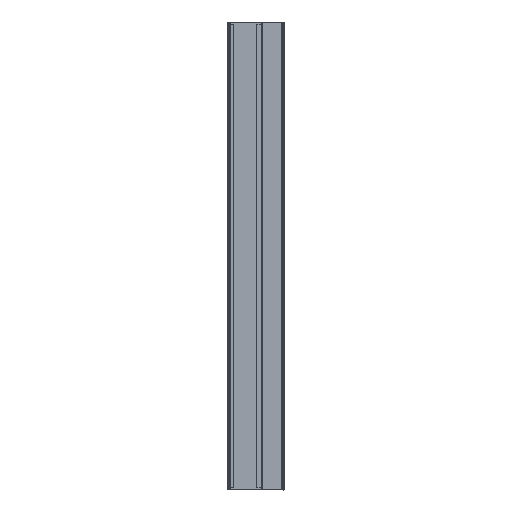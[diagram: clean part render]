
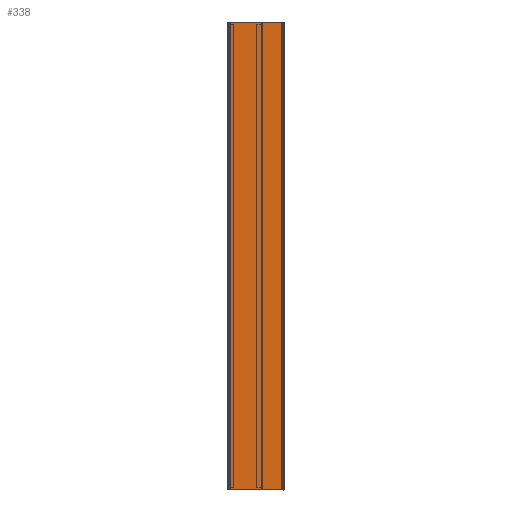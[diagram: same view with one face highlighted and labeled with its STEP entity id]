
A CAD part, left-side view. The second image highlights one B-rep face of the part: STEP entity #338.
In plain terms, the highlighted planar face has unit normal (-1, 0, 0).
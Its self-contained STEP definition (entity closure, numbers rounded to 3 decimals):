
#338=ADVANCED_FACE('',(#1424),#1426,.T.);
#1424=FACE_BOUND('',#1425,.T.);
#1425=EDGE_LOOP('',(#7287,#7288,#7289,#7290));
#1426=PLANE('',#1427);
#1427=AXIS2_PLACEMENT_3D('',#1428,#1429,#1430);
#1428=CARTESIAN_POINT('',(-25.,4.,-285.5));
#1429=DIRECTION('',(-1.,0.,0.));
#1430=DIRECTION('',(0.,-1.,0.));
#7287=ORIENTED_EDGE('',*,*,#11801,.T.);
#7288=ORIENTED_EDGE('',*,*,#11991,.T.);
#7289=ORIENTED_EDGE('',*,*,#11992,.T.);
#7290=ORIENTED_EDGE('',*,*,#11993,.F.);
#11801=EDGE_CURVE('',#14153,#14154,#14155,.F.);
#11991=EDGE_CURVE('',#14154,#14533,#14534,.T.);
#11992=EDGE_CURVE('',#14533,#14535,#14536,.F.);
#11993=EDGE_CURVE('',#14153,#14535,#14537,.T.);
#14153=VERTEX_POINT('',#18077);
#14154=VERTEX_POINT('',#18078);
#14155=LINE('',#18079,#18080);
#14533=VERTEX_POINT('',#18957);
#14534=LINE('',#18958,#18959);
#14535=VERTEX_POINT('',#18961);
#14536=LINE('',#18962,#18963);
#14537=LINE('',#18965,#18966);
#18077=CARTESIAN_POINT('',(-25.,4.,-285.5));
#18078=CARTESIAN_POINT('',(-25.,-63.75,-285.5));
#18079=CARTESIAN_POINT('',(-25.,-63.75,-285.5));
#18080=VECTOR('',#18081,1.);
#18081=DIRECTION('',(0.,1.,0.));
#18957=CARTESIAN_POINT('',(-25.,-63.75,285.5));
#18958=CARTESIAN_POINT('',(-25.,-63.75,-285.5));
#18959=VECTOR('',#18960,1.);
#18960=DIRECTION('',(0.,0.,1.));
#18961=CARTESIAN_POINT('',(-25.,4.,285.5));
#18962=CARTESIAN_POINT('',(-25.,4.,285.5));
#18963=VECTOR('',#18964,1.);
#18964=DIRECTION('',(0.,-1.,0.));
#18965=CARTESIAN_POINT('',(-25.,4.,-285.5));
#18966=VECTOR('',#18967,1.);
#18967=DIRECTION('',(0.,0.,1.));
